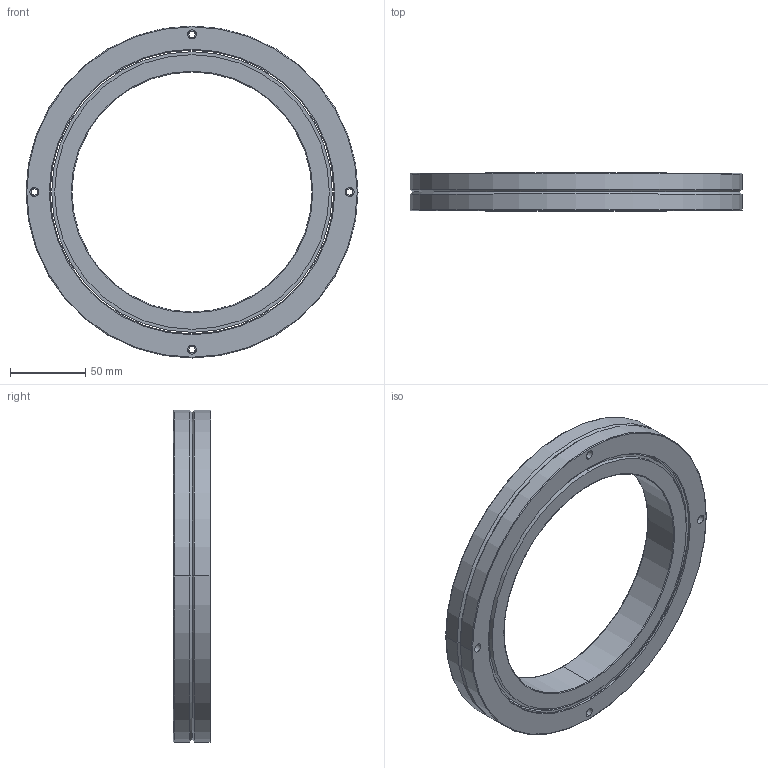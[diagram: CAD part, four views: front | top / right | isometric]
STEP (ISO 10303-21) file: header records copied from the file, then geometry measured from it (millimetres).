
FILE_DESCRIPTION((''),'2;1');
FILE_NAME('RB16025','2015-05-08T',('Administrator'),(''),'PRO/ENGINEER BY PARAMETRIC TECHNOLOGY CORPORATION, 2010180','PRO/ENGINEER BY PARAMETRIC TECHNOLOGY CORPORATION, 2010180','');
FILE_SCHEMA(('AUTOMOTIVE_DESIGN_CC2 { 1 2 10303 214 -1 1 5 2 }'));
Length unit declared in the file: millimetre
Products named in the file (1): RB16025
Bounding box: 221.2 x 25 x 221.2 mm (x, y, z)
Volume: 376888.7 mm3; surface area: 106643.7 mm2
Topology: 2 solids, 2 shells, 88 faces, 184 edges, 114 vertices
Faces by surface type: cylinder 50, plane 18, cone 12, torus 8
Entity records: 2497 total; most frequent: DIRECTION 482, CARTESIAN_POINT 386, ORIENTED_EDGE 368, AXIS2_PLACEMENT_3D 210, EDGE_CURVE 184, CIRCLE 122, VERTEX_POINT 114, EDGE_LOOP 114
